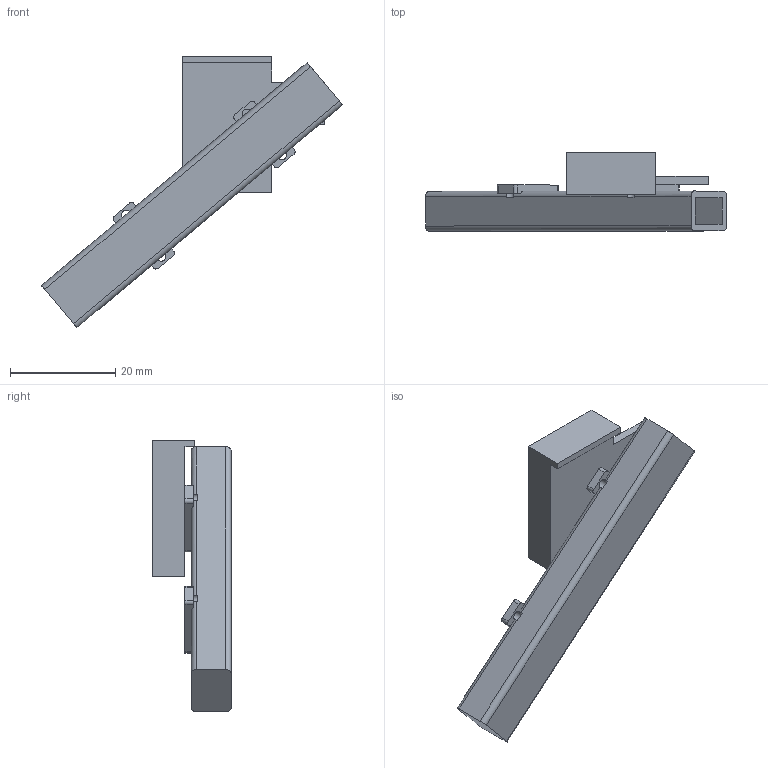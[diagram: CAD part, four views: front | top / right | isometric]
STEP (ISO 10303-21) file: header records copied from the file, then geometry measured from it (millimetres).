
FILE_DESCRIPTION(('Open CASCADE Model'),'2;1');
FILE_NAME('Open CASCADE Shape Model','2026-09-28T23:13:59',('Author'),( 'Open CASCADE'),'Open CASCADE STEP processor 7.8','Open CASCADE 7.8' ,'Unknown');
FILE_SCHEMA(('AUTOMOTIVE_DESIGN { 1 0 10303 214 1 1 1 1 }'));
Length unit declared in the file: millimetre
Products named in the file (1): Open CASCADE STEP translator 7.8 4
Bounding box: 57.31 x 14.9 x 51.7 mm (x, y, z)
Volume: 4565.4 mm3; surface area: 6355.4 mm2
Topology: 1 solids, 1 shells, 76 faces, 226 edges, 150 vertices
Faces by surface type: plane 52, cylinder 24
Full cylindrical faces by diameter (mm): 1.7 x4
Entity records: 6984 total; most frequent: CARTESIAN_POINT 2554, DIRECTION 810, LINE 523, VECTOR 523, ORIENTED_EDGE 452, PCURVE 452, DEFINITIONAL_REPRESENTATION 452, EDGE_CURVE 226
